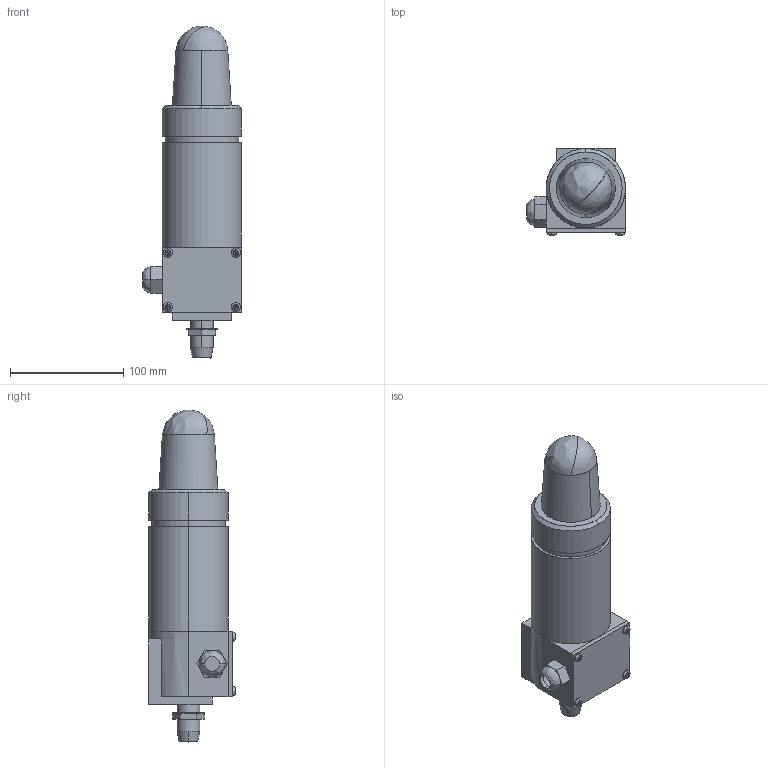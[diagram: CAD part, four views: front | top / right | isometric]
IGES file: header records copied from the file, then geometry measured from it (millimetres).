
Start section: SolidWorks IGES file using analytic representation for surfaces
Global section: file name: O:\PDG\Technik\Dokumentation\Zeichnungen\Alarmsysteme\Blitzleuchten\30046\Grafik\SW\CWB\30046-CWB.IGS; native system: SolidWorks 2015; preprocessor: SolidWorks 2015; author: PDG_MM; date: 170622.155101; units: millimetre
Bounding box: 87.41 x 76.4 x 293.18 mm (x, y, z)
Surface area: 100902.3 mm2 (no closed solid volume)
Topology: 0 solids, 0 shells, 231 faces, 2635 edges, 2631 vertices
Faces by surface type: bspline 142, revolution 89
